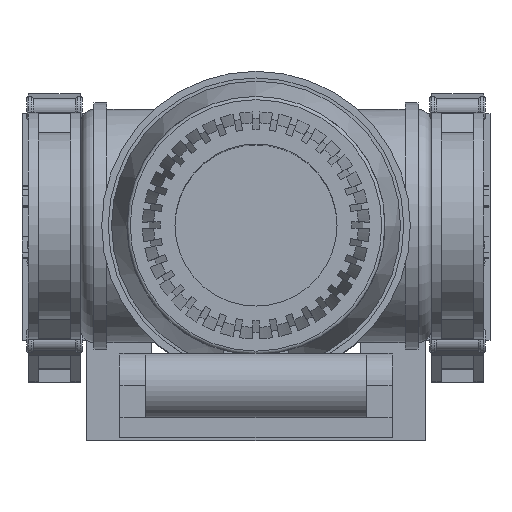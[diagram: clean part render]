
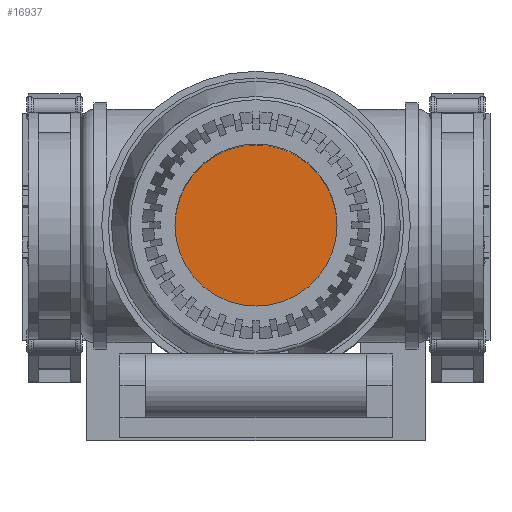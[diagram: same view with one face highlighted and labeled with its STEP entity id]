
A CAD part, top view. The second image highlights one B-rep face of the part: STEP entity #16937.
In plain terms, the highlighted planar face has unit normal (0, 0, 1).
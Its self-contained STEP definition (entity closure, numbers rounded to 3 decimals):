
#1236=FACE_OUTER_BOUND('',#2131,.T.);
#2131=EDGE_LOOP('',(#14963));
#2563=CIRCLE('',#18168,12.5);
#7947=VERTEX_POINT('',#27969);
#10319=EDGE_CURVE('',#7947,#7947,#2563,.T.);
#14963=ORIENTED_EDGE('',*,*,#10319,.F.);
#16122=PLANE('',#18169);
#16937=ADVANCED_FACE('',(#1236),#16122,.T.);
#18168=AXIS2_PLACEMENT_3D('',#27971,#22292,#22293);
#18169=AXIS2_PLACEMENT_3D('',#27972,#22294,#22295);
#22292=DIRECTION('center_axis',(0.,0.,-1.));
#22293=DIRECTION('ref_axis',(1.,0.,0.));
#22294=DIRECTION('center_axis',(0.,0.,1.));
#22295=DIRECTION('ref_axis',(1.,0.,0.));
#27969=CARTESIAN_POINT('',(-12.5,0.,6.663));
#27971=CARTESIAN_POINT('Origin',(0.,0.,6.663));
#27972=CARTESIAN_POINT('Origin',(0.,0.,6.663));
